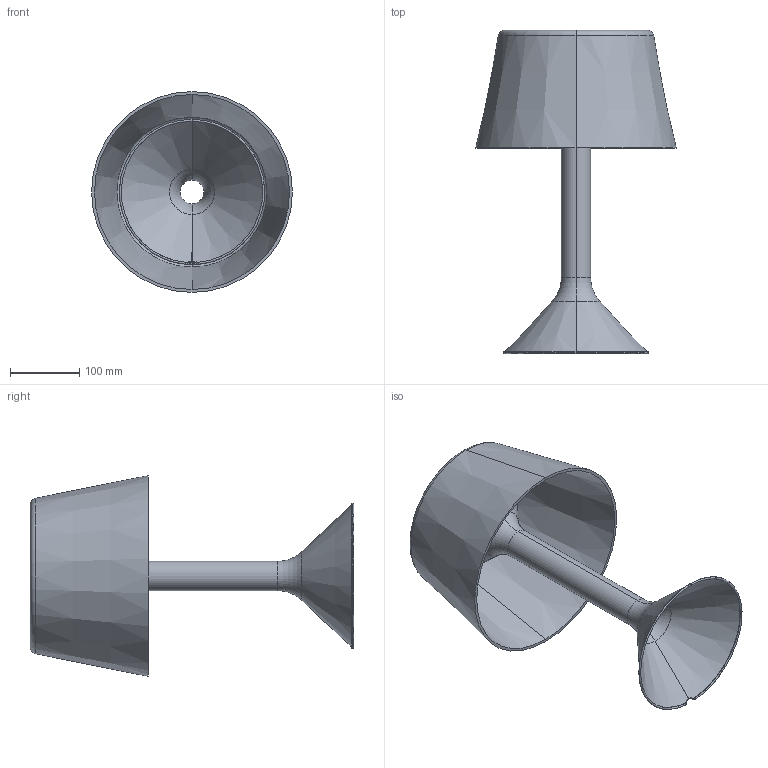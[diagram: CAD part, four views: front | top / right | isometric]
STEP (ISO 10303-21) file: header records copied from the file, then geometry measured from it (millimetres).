
FILE_DESCRIPTION (( 'STEP AP214' ), '1' );
FILE_NAME ('314_V_LD_3D.STEP', '2023-06-06T08:54:35', ( '' ), ( '' ), 'SwSTEP 2.0', 'SolidWorks 2022', '' );
FILE_SCHEMA (( 'AUTOMOTIVE_DESIGN' ));
Length unit declared in the file: millimetre
Products named in the file (1): 314_V_LD_3D
Bounding box: 290 x 467 x 290 mm (x, y, z)
Volume: 913994.7 mm3; surface area: 561679.2 mm2
Topology: 2 solids, 2 shells, 50 faces, 105 edges, 56 vertices
Faces by surface type: torus 26, cone 16, cylinder 7, plane 1
Entity records: 2047 total; most frequent: CARTESIAN_POINT 352, DIRECTION 270, ORIENTED_EDGE 210, AXIS2_PLACEMENT_3D 124, EDGE_CURVE 105, CIRCLE 73, VERTEX_POINT 56, UNCERTAINTY_MEASURE_WITH_UNIT 54
